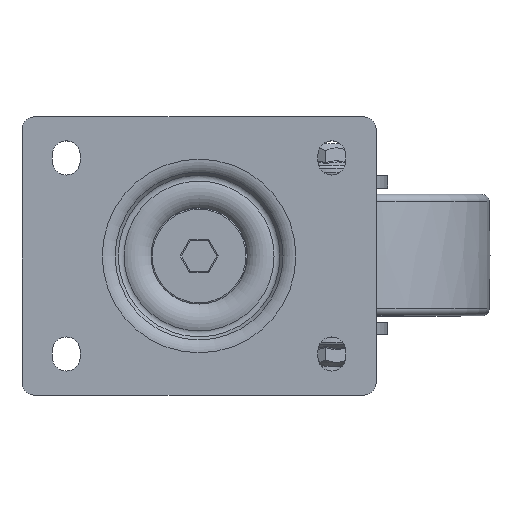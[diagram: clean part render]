
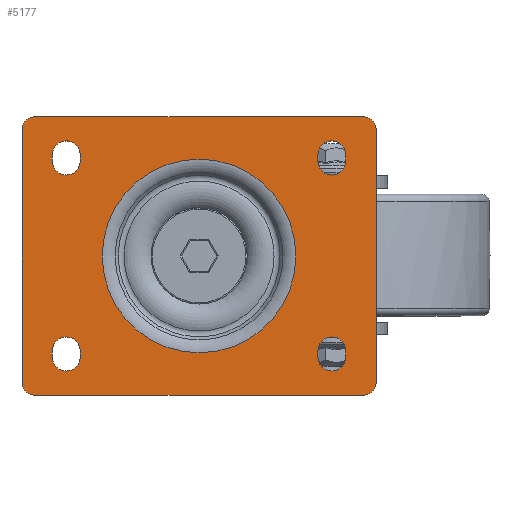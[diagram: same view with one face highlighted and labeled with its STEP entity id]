
A CAD part, top view. The second image highlights one B-rep face of the part: STEP entity #5177.
In plain terms, the highlighted planar face has unit normal (0, 0, 1).
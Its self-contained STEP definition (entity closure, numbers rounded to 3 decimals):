
#222=PLANE('',#5802);
#445=LINE('',#13209,#713);
#449=LINE('',#13221,#717);
#453=LINE('',#13233,#721);
#456=LINE('',#13242,#724);
#459=LINE('',#13250,#727);
#464=LINE('',#13263,#732);
#467=LINE('',#13274,#735);
#472=LINE('',#13287,#740);
#475=LINE('',#13298,#743);
#480=LINE('',#13311,#748);
#483=LINE('',#13322,#751);
#488=LINE('',#13335,#756);
#713=VECTOR('',#7119,100.);
#717=VECTOR('',#7131,130.);
#721=VECTOR('',#7143,100.);
#724=VECTOR('',#7154,130.);
#727=VECTOR('',#7159,2.5);
#732=VECTOR('',#7172,2.5);
#735=VECTOR('',#7183,2.5);
#740=VECTOR('',#7196,2.5);
#743=VECTOR('',#7207,2.5);
#748=VECTOR('',#7220,2.5);
#751=VECTOR('',#7231,2.5);
#756=VECTOR('',#7244,2.5);
#967=FACE_BOUND('',#1608,.T.);
#968=FACE_BOUND('',#1609,.T.);
#969=FACE_BOUND('',#1610,.T.);
#970=FACE_BOUND('',#1611,.T.);
#971=FACE_BOUND('',#1612,.T.);
#1248=FACE_OUTER_BOUND('',#1607,.T.);
#1607=EDGE_LOOP('',(#4683,#4684,#4685,#4686,#4687,#4688,#4689,#4690));
#1608=EDGE_LOOP('',(#4691,#4692,#4693,#4694));
#1609=EDGE_LOOP('',(#4695,#4696,#4697,#4698));
#1610=EDGE_LOOP('',(#4699,#4700,#4701,#4702));
#1611=EDGE_LOOP('',(#4703,#4704,#4705,#4706));
#1612=EDGE_LOOP('',(#4707));
#1914=CIRCLE('',#5720,38.273);
#1935=CIRCLE('',#5753,5.);
#1937=CIRCLE('',#5757,5.);
#1939=CIRCLE('',#5761,5.);
#1941=CIRCLE('',#5765,5.);
#1943=CIRCLE('',#5770,5.5);
#1945=CIRCLE('',#5774,5.5);
#1947=CIRCLE('',#5778,5.5);
#1949=CIRCLE('',#5782,5.5);
#1951=CIRCLE('',#5786,5.5);
#1953=CIRCLE('',#5790,5.5);
#1955=CIRCLE('',#5794,5.5);
#1957=CIRCLE('',#5798,5.5);
#2497=VERTEX_POINT('',#13140);
#2515=VERTEX_POINT('',#13199);
#2516=VERTEX_POINT('',#13201);
#2518=VERTEX_POINT('',#13207);
#2520=VERTEX_POINT('',#13213);
#2522=VERTEX_POINT('',#13219);
#2524=VERTEX_POINT('',#13225);
#2526=VERTEX_POINT('',#13231);
#2528=VERTEX_POINT('',#13237);
#2531=VERTEX_POINT('',#13247);
#2532=VERTEX_POINT('',#13249);
#2534=VERTEX_POINT('',#13255);
#2536=VERTEX_POINT('',#13261);
#2539=VERTEX_POINT('',#13271);
#2540=VERTEX_POINT('',#13273);
#2542=VERTEX_POINT('',#13279);
#2544=VERTEX_POINT('',#13285);
#2547=VERTEX_POINT('',#13295);
#2548=VERTEX_POINT('',#13297);
#2550=VERTEX_POINT('',#13303);
#2552=VERTEX_POINT('',#13309);
#2555=VERTEX_POINT('',#13319);
#2556=VERTEX_POINT('',#13321);
#2558=VERTEX_POINT('',#13327);
#2560=VERTEX_POINT('',#13333);
#3189=EDGE_CURVE('',#2497,#2497,#1914,.T.);
#3218=EDGE_CURVE('',#2516,#2515,#1935,.T.);
#3222=EDGE_CURVE('',#2515,#2518,#445,.T.);
#3225=EDGE_CURVE('',#2518,#2520,#1937,.T.);
#3228=EDGE_CURVE('',#2520,#2522,#449,.T.);
#3231=EDGE_CURVE('',#2522,#2524,#1939,.T.);
#3234=EDGE_CURVE('',#2524,#2526,#453,.T.);
#3237=EDGE_CURVE('',#2526,#2528,#1941,.T.);
#3239=EDGE_CURVE('',#2528,#2516,#456,.T.);
#3242=EDGE_CURVE('',#2532,#2531,#459,.T.);
#3246=EDGE_CURVE('',#2531,#2534,#1943,.T.);
#3249=EDGE_CURVE('',#2534,#2536,#464,.T.);
#3251=EDGE_CURVE('',#2536,#2532,#1945,.T.);
#3254=EDGE_CURVE('',#2540,#2539,#467,.T.);
#3258=EDGE_CURVE('',#2539,#2542,#1947,.T.);
#3261=EDGE_CURVE('',#2542,#2544,#472,.T.);
#3263=EDGE_CURVE('',#2544,#2540,#1949,.T.);
#3266=EDGE_CURVE('',#2548,#2547,#475,.T.);
#3270=EDGE_CURVE('',#2547,#2550,#1951,.T.);
#3273=EDGE_CURVE('',#2550,#2552,#480,.T.);
#3275=EDGE_CURVE('',#2552,#2548,#1953,.T.);
#3278=EDGE_CURVE('',#2556,#2555,#483,.T.);
#3282=EDGE_CURVE('',#2555,#2558,#1955,.T.);
#3285=EDGE_CURVE('',#2558,#2560,#488,.T.);
#3287=EDGE_CURVE('',#2560,#2556,#1957,.T.);
#4683=ORIENTED_EDGE('',*,*,#3239,.T.);
#4684=ORIENTED_EDGE('',*,*,#3218,.T.);
#4685=ORIENTED_EDGE('',*,*,#3222,.T.);
#4686=ORIENTED_EDGE('',*,*,#3225,.T.);
#4687=ORIENTED_EDGE('',*,*,#3228,.T.);
#4688=ORIENTED_EDGE('',*,*,#3231,.T.);
#4689=ORIENTED_EDGE('',*,*,#3234,.T.);
#4690=ORIENTED_EDGE('',*,*,#3237,.T.);
#4691=ORIENTED_EDGE('',*,*,#3251,.T.);
#4692=ORIENTED_EDGE('',*,*,#3242,.T.);
#4693=ORIENTED_EDGE('',*,*,#3246,.T.);
#4694=ORIENTED_EDGE('',*,*,#3249,.T.);
#4695=ORIENTED_EDGE('',*,*,#3263,.T.);
#4696=ORIENTED_EDGE('',*,*,#3254,.T.);
#4697=ORIENTED_EDGE('',*,*,#3258,.T.);
#4698=ORIENTED_EDGE('',*,*,#3261,.T.);
#4699=ORIENTED_EDGE('',*,*,#3275,.T.);
#4700=ORIENTED_EDGE('',*,*,#3266,.T.);
#4701=ORIENTED_EDGE('',*,*,#3270,.T.);
#4702=ORIENTED_EDGE('',*,*,#3273,.T.);
#4703=ORIENTED_EDGE('',*,*,#3287,.T.);
#4704=ORIENTED_EDGE('',*,*,#3278,.T.);
#4705=ORIENTED_EDGE('',*,*,#3282,.T.);
#4706=ORIENTED_EDGE('',*,*,#3285,.T.);
#4707=ORIENTED_EDGE('',*,*,#3189,.F.);
#5177=ADVANCED_FACE('',(#1248,#967,#968,#969,#970,#971),#222,.T.);
#5720=AXIS2_PLACEMENT_3D('',#13142,#7038,#7039);
#5753=AXIS2_PLACEMENT_3D('',#13202,#7112,#7113);
#5757=AXIS2_PLACEMENT_3D('',#13215,#7125,#7126);
#5761=AXIS2_PLACEMENT_3D('',#13227,#7137,#7138);
#5765=AXIS2_PLACEMENT_3D('',#13239,#7149,#7150);
#5770=AXIS2_PLACEMENT_3D('',#13257,#7166,#7167);
#5774=AXIS2_PLACEMENT_3D('',#13266,#7177,#7178);
#5778=AXIS2_PLACEMENT_3D('',#13281,#7190,#7191);
#5782=AXIS2_PLACEMENT_3D('',#13290,#7201,#7202);
#5786=AXIS2_PLACEMENT_3D('',#13305,#7214,#7215);
#5790=AXIS2_PLACEMENT_3D('',#13314,#7225,#7226);
#5794=AXIS2_PLACEMENT_3D('',#13329,#7238,#7239);
#5798=AXIS2_PLACEMENT_3D('',#13338,#7249,#7250);
#5802=AXIS2_PLACEMENT_3D('',#13342,#7257,#7258);
#7038=DIRECTION('center_axis',(0.,0.,1.));
#7039=DIRECTION('ref_axis',(-1.,0.,0.));
#7112=DIRECTION('center_axis',(0.,0.,1.));
#7113=DIRECTION('ref_axis',(1.,0.,0.));
#7119=DIRECTION('',(0.,-1.,0.));
#7125=DIRECTION('center_axis',(0.,0.,1.));
#7126=DIRECTION('ref_axis',(1.,0.,0.));
#7131=DIRECTION('',(1.,0.,0.));
#7137=DIRECTION('center_axis',(0.,0.,1.));
#7138=DIRECTION('ref_axis',(1.,0.,0.));
#7143=DIRECTION('',(0.,1.,0.));
#7149=DIRECTION('center_axis',(0.,0.,1.));
#7150=DIRECTION('ref_axis',(1.,0.,0.));
#7154=DIRECTION('',(-1.,0.,0.));
#7159=DIRECTION('',(0.,-1.,0.));
#7166=DIRECTION('center_axis',(0.,0.,-1.));
#7167=DIRECTION('ref_axis',(1.,0.,0.));
#7172=DIRECTION('',(0.,1.,0.));
#7177=DIRECTION('center_axis',(0.,0.,-1.));
#7178=DIRECTION('ref_axis',(1.,0.,0.));
#7183=DIRECTION('',(0.,1.,0.));
#7190=DIRECTION('center_axis',(0.,0.,-1.));
#7191=DIRECTION('ref_axis',(1.,0.,0.));
#7196=DIRECTION('',(0.,-1.,0.));
#7201=DIRECTION('center_axis',(0.,0.,-1.));
#7202=DIRECTION('ref_axis',(1.,0.,0.));
#7207=DIRECTION('',(0.,1.,0.));
#7214=DIRECTION('center_axis',(0.,0.,-1.));
#7215=DIRECTION('ref_axis',(1.,0.,0.));
#7220=DIRECTION('',(0.,-1.,0.));
#7225=DIRECTION('center_axis',(0.,0.,-1.));
#7226=DIRECTION('ref_axis',(1.,0.,0.));
#7231=DIRECTION('',(0.,-1.,0.));
#7238=DIRECTION('center_axis',(0.,0.,-1.));
#7239=DIRECTION('ref_axis',(1.,0.,0.));
#7244=DIRECTION('',(0.,1.,0.));
#7249=DIRECTION('center_axis',(0.,0.,-1.));
#7250=DIRECTION('ref_axis',(1.,0.,0.));
#7257=DIRECTION('center_axis',(0.,0.,1.));
#7258=DIRECTION('ref_axis',(0.,-1.,0.));
#13140=CARTESIAN_POINT('',(0.,38.273,0.));
#13142=CARTESIAN_POINT('Origin',(0.,0.,0.));
#13199=CARTESIAN_POINT('',(-70.,50.,0.));
#13201=CARTESIAN_POINT('',(-65.,55.,0.));
#13202=CARTESIAN_POINT('Origin',(-65.,50.,0.));
#13207=CARTESIAN_POINT('',(-70.,-50.,0.));
#13209=CARTESIAN_POINT('',(-70.,50.,0.));
#13213=CARTESIAN_POINT('',(-65.,-55.,0.));
#13215=CARTESIAN_POINT('Origin',(-65.,-50.,0.));
#13219=CARTESIAN_POINT('',(65.,-55.,0.));
#13221=CARTESIAN_POINT('',(-65.,-55.,0.));
#13225=CARTESIAN_POINT('',(70.,-50.,0.));
#13227=CARTESIAN_POINT('Origin',(65.,-50.,0.));
#13231=CARTESIAN_POINT('',(70.,50.,0.));
#13233=CARTESIAN_POINT('',(70.,-50.,0.));
#13237=CARTESIAN_POINT('',(65.,55.,0.));
#13239=CARTESIAN_POINT('Origin',(65.,50.,0.));
#13242=CARTESIAN_POINT('',(65.,55.,0.));
#13247=CARTESIAN_POINT('',(-47.,37.5,0.));
#13249=CARTESIAN_POINT('',(-47.,40.,0.));
#13250=CARTESIAN_POINT('',(-47.,40.,0.));
#13255=CARTESIAN_POINT('',(-58.,37.5,0.));
#13257=CARTESIAN_POINT('Origin',(-52.5,37.5,0.));
#13261=CARTESIAN_POINT('',(-58.,40.,0.));
#13263=CARTESIAN_POINT('',(-58.,37.5,0.));
#13266=CARTESIAN_POINT('Origin',(-52.5,40.,0.));
#13271=CARTESIAN_POINT('',(47.,40.,0.));
#13273=CARTESIAN_POINT('',(47.,37.5,0.));
#13274=CARTESIAN_POINT('',(47.,37.5,0.));
#13279=CARTESIAN_POINT('',(58.,40.,0.));
#13281=CARTESIAN_POINT('Origin',(52.5,40.,0.));
#13285=CARTESIAN_POINT('',(58.,37.5,0.));
#13287=CARTESIAN_POINT('',(58.,40.,0.));
#13290=CARTESIAN_POINT('Origin',(52.5,37.5,0.));
#13295=CARTESIAN_POINT('',(47.,-37.5,0.));
#13297=CARTESIAN_POINT('',(47.,-40.,0.));
#13298=CARTESIAN_POINT('',(47.,-40.,0.));
#13303=CARTESIAN_POINT('',(58.,-37.5,0.));
#13305=CARTESIAN_POINT('Origin',(52.5,-37.5,0.));
#13309=CARTESIAN_POINT('',(58.,-40.,0.));
#13311=CARTESIAN_POINT('',(58.,-37.5,0.));
#13314=CARTESIAN_POINT('Origin',(52.5,-40.,0.));
#13319=CARTESIAN_POINT('',(-47.,-40.,0.));
#13321=CARTESIAN_POINT('',(-47.,-37.5,0.));
#13322=CARTESIAN_POINT('',(-47.,-37.5,0.));
#13327=CARTESIAN_POINT('',(-58.,-40.,0.));
#13329=CARTESIAN_POINT('Origin',(-52.5,-40.,0.));
#13333=CARTESIAN_POINT('',(-58.,-37.5,0.));
#13335=CARTESIAN_POINT('',(-58.,-40.,0.));
#13338=CARTESIAN_POINT('Origin',(-52.5,-37.5,0.));
#13342=CARTESIAN_POINT('Origin',(-37.248,0.,0.));
